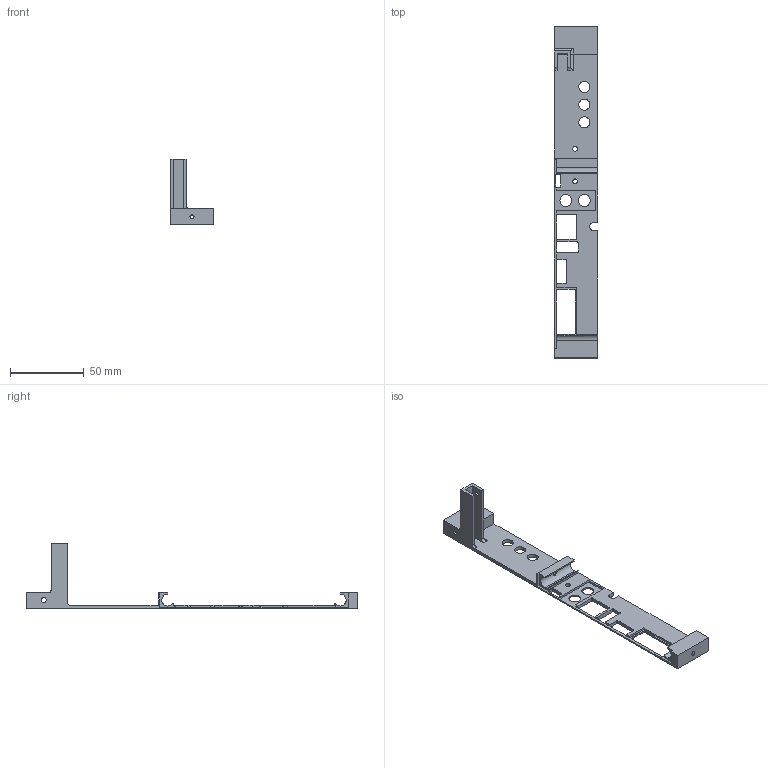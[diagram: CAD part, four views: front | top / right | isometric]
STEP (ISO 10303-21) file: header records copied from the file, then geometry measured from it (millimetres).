
FILE_DESCRIPTION (( 'STEP AP214' ), '1' );
FILE_NAME ('Jetson_node_back.STEP', '2015-02-27T04:07:41', ( '' ), ( '' ), '', '', '' );
FILE_SCHEMA (( '' ));
Length unit declared in the file: millimetre
Products named in the file (1): Jetson_node_back
Bounding box: 29.75 x 225 x 44.65 mm (x, y, z)
Volume: 21645.2 mm3; surface area: 18842.7 mm2
Topology: 1 solids, 1 shells, 127 faces, 380 edges, 252 vertices
Faces by surface type: plane 67, cylinder 60
Entity records: 4574 total; most frequent: CARTESIAN_POINT 980, ORIENTED_EDGE 760, DIRECTION 729, EDGE_CURVE 380, VECTOR 263, LINE 263, VERTEX_POINT 252, AXIS2_PLACEMENT_3D 233
